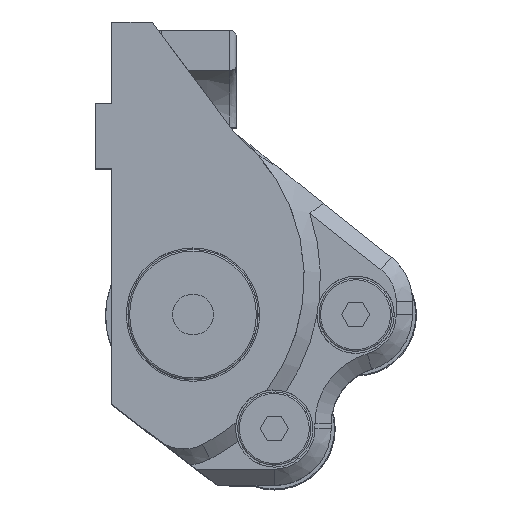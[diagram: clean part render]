
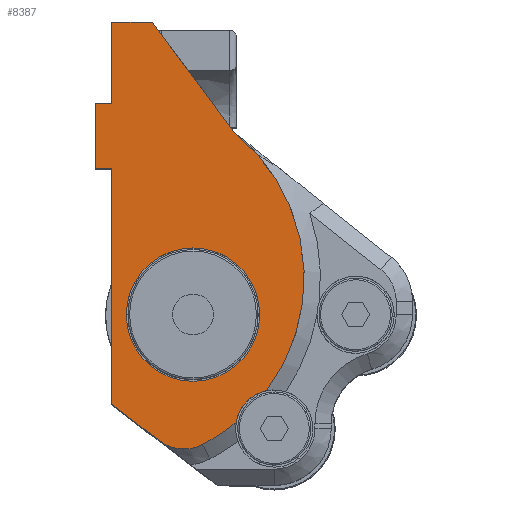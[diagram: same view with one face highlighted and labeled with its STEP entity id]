
A CAD part, top view. The second image highlights one B-rep face of the part: STEP entity #8387.
In plain terms, the highlighted planar face has unit normal (0, 0, 1).
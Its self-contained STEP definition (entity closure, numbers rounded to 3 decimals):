
#6580=CARTESIAN_POINT('Vertex',(5.833,437.013,29.75)) ;
#6583=CARTESIAN_POINT('Line Origine',(6.5,436.5,29.75)) ;
#6587=CARTESIAN_POINT('Vertex',(0.,441.5,29.75)) ;
#6644=CARTESIAN_POINT('Line Origine',(0.,456.,29.75)) ;
#6648=CARTESIAN_POINT('Vertex',(0.,470.5,29.75)) ;
#6669=CARTESIAN_POINT('Vertex',(0.,478.5,29.75)) ;
#6672=CARTESIAN_POINT('Line Origine',(0.,483.5,29.75)) ;
#6676=CARTESIAN_POINT('Vertex',(0.,488.5,29.75)) ;
#7389=CARTESIAN_POINT('Vertex',(5.,488.5,29.75)) ;
#7394=CARTESIAN_POINT('Line Origine',(10.,481.75,29.75)) ;
#7398=CARTESIAN_POINT('Vertex',(15.,475.,29.75)) ;
#8300=CARTESIAN_POINT('Axis2P3D Location',(0.,469.,29.75)) ;
#8305=CARTESIAN_POINT('Axis2P3D Location',(20.,438.5,29.75)) ;
#8309=CARTESIAN_POINT('Vertex',(15.31,439.251,29.75)) ;
#8311=CARTESIAN_POINT('Vertex',(19.047,443.153,29.75)) ;
#8314=CARTESIAN_POINT('Axis2P3D Location',(0.682,457.,29.75)) ;
#8319=CARTESIAN_POINT('Line Origine',(2.5,488.5,29.75)) ;
#8324=CARTESIAN_POINT('Line Origine',(-1.,478.5,29.75)) ;
#8328=CARTESIAN_POINT('Vertex',(-2.,478.5,29.75)) ;
#8331=CARTESIAN_POINT('Line Origine',(-2.,474.5,29.75)) ;
#8335=CARTESIAN_POINT('Vertex',(-2.,470.5,29.75)) ;
#8338=CARTESIAN_POINT('Line Origine',(-1.,470.5,29.75)) ;
#8343=CARTESIAN_POINT('Axis2P3D Location',(8.882,440.976,29.75)) ;
#8347=CARTESIAN_POINT('Vertex',(11.159,436.525,29.75)) ;
#8350=CARTESIAN_POINT('Axis2P3D Location',(0.682,457.,29.75)) ;
#8369=CARTESIAN_POINT('Axis2P3D Location',(10.,452.5,29.75)) ;
#8373=CARTESIAN_POINT('Vertex',(1.8,452.5,29.75)) ;
#8375=CARTESIAN_POINT('Vertex',(18.2,452.5,29.75)) ;
#8378=CARTESIAN_POINT('Axis2P3D Location',(10.,452.5,29.75)) ;
#6584=DIRECTION('Vector Direction',(-0.793,0.61,0.)) ;
#6645=DIRECTION('Vector Direction',(0.,-1.,0.)) ;
#6673=DIRECTION('Vector Direction',(0.,-1.,0.)) ;
#7395=DIRECTION('Vector Direction',(0.595,-0.804,0.)) ;
#8301=DIRECTION('Axis2P3D Direction',(0.,0.,-1.)) ;
#8302=DIRECTION('Axis2P3D XDirection',(1.,0.,0.)) ;
#8306=DIRECTION('Axis2P3D Direction',(0.,0.,-1.)) ;
#8315=DIRECTION('Axis2P3D Direction',(0.,0.,-1.)) ;
#8320=DIRECTION('Vector Direction',(1.,0.,0.)) ;
#8325=DIRECTION('Vector Direction',(-1.,0.,0.)) ;
#8332=DIRECTION('Vector Direction',(0.,-1.,0.)) ;
#8339=DIRECTION('Vector Direction',(-1.,0.,0.)) ;
#8344=DIRECTION('Axis2P3D Direction',(0.,0.,-1.)) ;
#8351=DIRECTION('Axis2P3D Direction',(0.,0.,-1.)) ;
#8370=DIRECTION('Axis2P3D Direction',(0.,0.,-1.)) ;
#8379=DIRECTION('Axis2P3D Direction',(0.,0.,-1.)) ;
#8303=AXIS2_PLACEMENT_3D('Plane Axis2P3D',#8300,#8301,#8302) ;
#8307=AXIS2_PLACEMENT_3D('Circle Axis2P3D',#8305,#8306,$) ;
#8316=AXIS2_PLACEMENT_3D('Circle Axis2P3D',#8314,#8315,$) ;
#8345=AXIS2_PLACEMENT_3D('Circle Axis2P3D',#8343,#8344,$) ;
#8352=AXIS2_PLACEMENT_3D('Circle Axis2P3D',#8350,#8351,$) ;
#8371=AXIS2_PLACEMENT_3D('Circle Axis2P3D',#8369,#8370,$) ;
#8380=AXIS2_PLACEMENT_3D('Circle Axis2P3D',#8378,#8379,$) ;
#8356=ORIENTED_EDGE('',*,*,#8313,.T.) ;
#8357=ORIENTED_EDGE('',*,*,#8318,.T.) ;
#8358=ORIENTED_EDGE('',*,*,#7400,.F.) ;
#8359=ORIENTED_EDGE('',*,*,#8323,.F.) ;
#8360=ORIENTED_EDGE('',*,*,#6678,.F.) ;
#8361=ORIENTED_EDGE('',*,*,#8330,.T.) ;
#8362=ORIENTED_EDGE('',*,*,#8337,.T.) ;
#8363=ORIENTED_EDGE('',*,*,#8342,.F.) ;
#8364=ORIENTED_EDGE('',*,*,#6650,.F.) ;
#8365=ORIENTED_EDGE('',*,*,#6589,.F.) ;
#8366=ORIENTED_EDGE('',*,*,#8349,.T.) ;
#8367=ORIENTED_EDGE('',*,*,#8354,.T.) ;
#8384=ORIENTED_EDGE('',*,*,#8377,.T.) ;
#8385=ORIENTED_EDGE('',*,*,#8382,.T.) ;
#8386=FACE_BOUND('',#8383,.T.) ;
#6585=VECTOR('Line Direction',#6584,1.) ;
#6646=VECTOR('Line Direction',#6645,1.) ;
#6674=VECTOR('Line Direction',#6673,1.) ;
#7396=VECTOR('Line Direction',#7395,1.) ;
#8321=VECTOR('Line Direction',#8320,1.) ;
#8326=VECTOR('Line Direction',#8325,1.) ;
#8333=VECTOR('Line Direction',#8332,1.) ;
#8340=VECTOR('Line Direction',#8339,1.) ;
#8387=ADVANCED_FACE('HYPERCUBE-EVO-0018-V2_NGEN.1\\Corps principal',(#8368,#8386),#8304,.F.) ;
#8308=CIRCLE('generated circle',#8307,4.75) ;
#8317=CIRCLE('generated circle',#8316,23.) ;
#8346=CIRCLE('generated circle',#8345,5.) ;
#8353=CIRCLE('generated circle',#8352,23.) ;
#8372=CIRCLE('generated circle',#8371,8.2) ;
#8381=CIRCLE('generated circle',#8380,8.2) ;
#6589=EDGE_CURVE('',#6581,#6588,#6586,.T.) ;
#6650=EDGE_CURVE('',#6588,#6649,#6647,.F.) ;
#6678=EDGE_CURVE('',#6670,#6677,#6675,.F.) ;
#7400=EDGE_CURVE('',#7390,#7399,#7397,.T.) ;
#8313=EDGE_CURVE('',#8310,#8312,#8308,.T.) ;
#8318=EDGE_CURVE('',#8312,#7399,#8317,.F.) ;
#8323=EDGE_CURVE('',#6677,#7390,#8322,.T.) ;
#8330=EDGE_CURVE('',#6670,#8329,#8327,.T.) ;
#8337=EDGE_CURVE('',#8329,#8336,#8334,.T.) ;
#8342=EDGE_CURVE('',#6649,#8336,#8341,.T.) ;
#8349=EDGE_CURVE('',#6581,#8348,#8346,.F.) ;
#8354=EDGE_CURVE('',#8348,#8310,#8353,.F.) ;
#8377=EDGE_CURVE('',#8374,#8376,#8372,.T.) ;
#8382=EDGE_CURVE('',#8376,#8374,#8381,.T.) ;
#8355=EDGE_LOOP('',(#8356,#8357,#8358,#8359,#8360,#8361,#8362,#8363,#8364,#8365,#8366,#8367)) ;
#8383=EDGE_LOOP('',(#8384,#8385)) ;
#8368=FACE_OUTER_BOUND('',#8355,.T.) ;
#6586=LINE('Line',#6583,#6585) ;
#6647=LINE('Line',#6644,#6646) ;
#6675=LINE('Line',#6672,#6674) ;
#7397=LINE('Line',#7394,#7396) ;
#8322=LINE('Line',#8319,#8321) ;
#8327=LINE('Line',#8324,#8326) ;
#8334=LINE('Line',#8331,#8333) ;
#8341=LINE('Line',#8338,#8340) ;
#8304=PLANE('',#8303) ;
#6581=VERTEX_POINT('',#6580) ;
#6588=VERTEX_POINT('',#6587) ;
#6649=VERTEX_POINT('',#6648) ;
#6670=VERTEX_POINT('',#6669) ;
#6677=VERTEX_POINT('',#6676) ;
#7390=VERTEX_POINT('',#7389) ;
#7399=VERTEX_POINT('',#7398) ;
#8310=VERTEX_POINT('',#8309) ;
#8312=VERTEX_POINT('',#8311) ;
#8329=VERTEX_POINT('',#8328) ;
#8336=VERTEX_POINT('',#8335) ;
#8348=VERTEX_POINT('',#8347) ;
#8374=VERTEX_POINT('',#8373) ;
#8376=VERTEX_POINT('',#8375) ;
